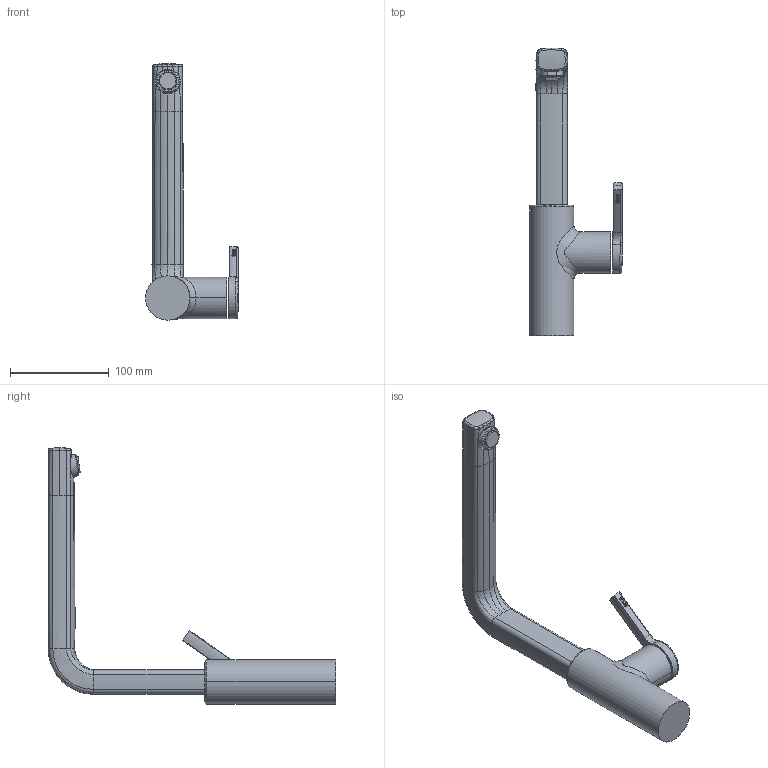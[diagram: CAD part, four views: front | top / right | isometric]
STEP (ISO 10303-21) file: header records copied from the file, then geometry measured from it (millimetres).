
FILE_DESCRIPTION((''),'2;1');
FILE_NAME('509588_MEDIA_SW0001','2021-02-05T07:03:01',('KS894'),(''),'CREO PARAMETRIC BY PTC INC, 2018500','CREO PARAMETRIC BY PTC INC, 2018500','');
FILE_SCHEMA(('CONFIG_CONTROL_DESIGN'));
Length unit declared in the file: millimetre
Products named in the file (1): 509588_MEDIA_SW0001
Bounding box: 94.1 x 291.44 x 259.88 mm (x, y, z)
Volume: 564829.3 mm3; surface area: 73744.2 mm2
Topology: 3 solids, 59 shells, 591 faces, 1327 edges, 856 vertices
Faces by surface type: plane 289, cylinder 139, bspline 85, cone 44, torus 31, sphere 3
Entity records: 25351 total; most frequent: CARTESIAN_POINT 13046, ORIENTED_EDGE 2644, DIRECTION 2286, EDGE_CURVE 1322, AXIS2_PLACEMENT_3D 920, VERTEX_POINT 856, EDGE_LOOP 600, FACE_OUTER_BOUND 591
